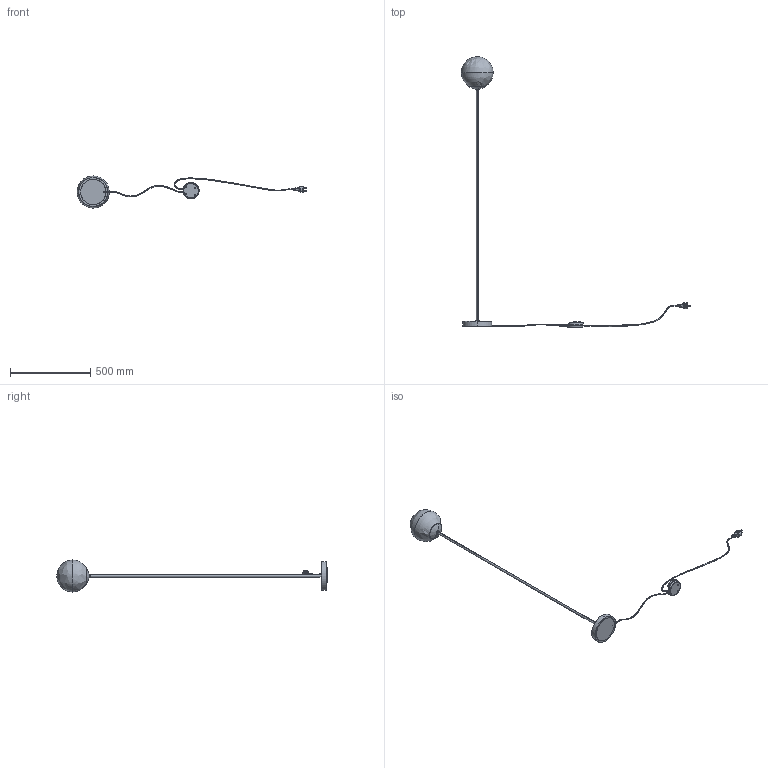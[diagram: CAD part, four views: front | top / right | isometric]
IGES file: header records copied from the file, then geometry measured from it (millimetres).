
Start section: SolidWorks IGES file using analytic representation for surfaces
Global section: file name: H:\Drive condivisi\Ufficio Tecnico\Graphics\Files 3D for Sito Web\Mod. 1081\Mod. 1081 H. 1,68_27.IGS; native system: SolidWorks 2023; preprocessor: SolidWorks 2023; author: Tecnico; date: 230627.141705; units: millimetre
Bounding box: 1430.5 x 1687.1 x 200 mm (x, y, z)
Surface area: 381035.8 mm2 (no closed solid volume)
Topology: 0 solids, 0 shells, 729 faces, 8161 edges, 8089 vertices
Faces by surface type: bspline 450, revolution 279
